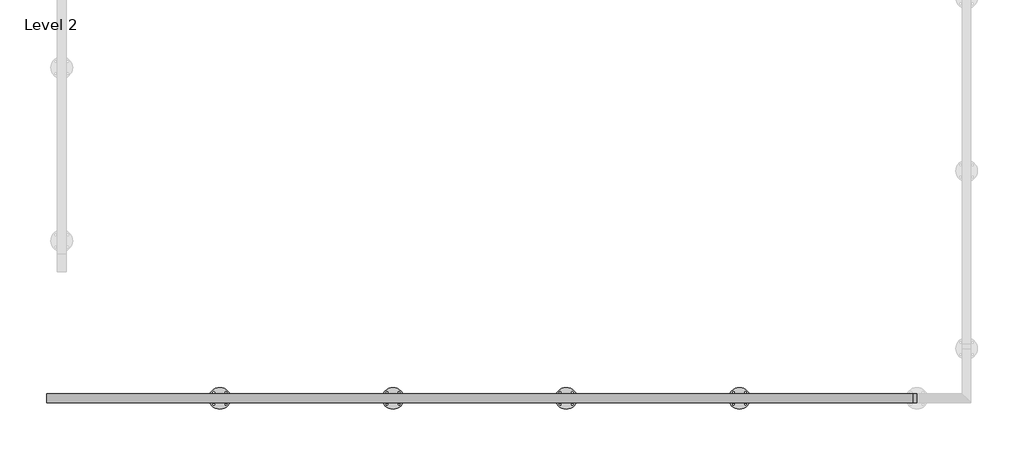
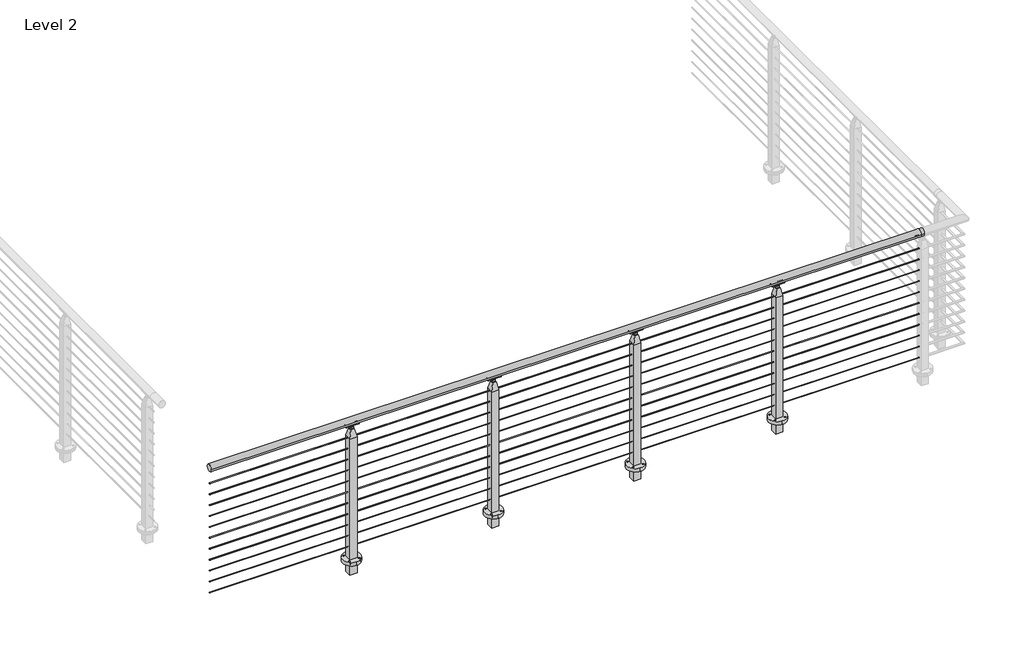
# One storey, part 14 of 17: 1 railing.
"""IFC4 building model written with IfcOpenShell, lengths in millimetres."""

from ifc_helpers import new_model, si_unit, point, frame, frame_2d, origin, place, context, project, spatial, polyline, circle_curve, trimmed, segment, composite_curve, outline, extrude, faceted_brep, element, save
from ifc_brep_helpers import plane_surface, cylinder_surface, revolved_surface, advanced_brep

model = new_model("IFC4")

# Units and contexts
model_context = context("Model", 3, world=origin())
ifc_project = project(units=[si_unit("LENGTHUNIT", "METRE", prefix="MILLI")], contexts=[model_context])

# Site, building, storey
site = spatial("IfcSite", under=ifc_project)
building = spatial("IfcBuilding", under=site)
storey = spatial("IfcBuildingStorey", under=building, Name="Level 2", Elevation=3048.0)

# Railing
placement = place(None, origin())
element("IfcRailing", 1, ObjectType="VIVA-CUBE-Cable-Core Mount-Straight", at=placement, inside=storey, context=model_context, shape_type="SolidModel", body=[
    advanced_brep(
    [(65792.8905484, -52130.1426165, 4102.1), (65792.8905484, -52079.3426165, 4102.1), (70872.8905484, -52130.1426165, 4102.1), (70872.8905484, -52079.3426165, 4102.1), (70897.8936734, -52130.1426165, 4102.1), (70897.8936734, -52079.3426165, 4102.1)],
    [
        (0, 1, circle_curve(frame((65792.8905484, -52104.7426165, 4102.1), z_axis=(-1.0, 0.0, 0.0), x_axis=(0.0, 1.0, 0.0)), 25.4)),
        (1, 0, circle_curve(frame((65792.8905484, -52104.7426165, 4102.1), z_axis=(-1.0, 0.0, 0.0), x_axis=(0.0, 1.0, 0.0)), 25.4)),
        (0, 2),
        (2, 3, circle_curve(frame((70872.8905484, -52104.7426165, 4102.1), z_axis=(-1.0, 0.0, 0.0), x_axis=(0.0, 1.0, 0.0)), 25.4)),
        (3, 1),
        (3, 2, circle_curve(frame((70872.8905484, -52104.7426165, 4102.1), z_axis=(-1.0, 0.0, 0.0), x_axis=(0.0, 1.0, 0.0)), 25.4)),
        (4, 5, circle_curve(frame((70897.8936734, -52104.7426165, 4102.1), z_axis=(1.0, 0.0, 0.0), x_axis=(0.0, 1.0, 0.0)), 25.4)),
        (5, 4, circle_curve(frame((70897.8936734, -52104.7426165, 4102.1), z_axis=(1.0, 0.0, 0.0), x_axis=(0.0, 1.0, 0.0)), 25.4)),
        (2, 4),
        (5, 3),
    ],
    [
        plane_surface(frame((65792.8905484, -52104.7426165, 4127.5), z_axis=(-1.0, 0.0, 0.0), x_axis=(0.0, 1.0, 0.0))),
        cylinder_surface(frame((65792.8905484, -52104.7426165, 4102.1), z_axis=(-1.0, 0.0, 0.0), x_axis=(0.0, 1.0, 0.0)), 25.4),
        plane_surface(frame((70897.8936734, -52104.7426165, 4127.5), z_axis=(1.0, 0.0, 0.0), x_axis=(0.0, 1.0, 0.0))),
        cylinder_surface(frame((70872.8905484, -52104.7426165, 4102.1), z_axis=(-1.0, 0.0, 0.0), x_axis=(0.0, 1.0, 0.0)), 25.4),
    ],
    [
        (0, [[1, 2]]),
        (1, [[-1, 3, 4, 5]]),
        (1, [[-2, -5, 6, -3]]),
        (2, [[7, 8]]),
        (3, [[-4, 9, -8, 10]]),
        (3, [[-6, -10, -7, -9]]),
    ],
),
    extrude(outline(composite_curve([segment(trimmed(circle_curve(frame_2d((-52104.7426165, 3985.4124)), 2.3876), [point((-52102.3550165, 3985.4124))], [point((-52107.1302165, 3985.4124))], False, "CARTESIAN"), True, "CONTINUOUS"), segment(trimmed(circle_curve(frame_2d((-52104.7426165, 3985.4124)), 2.3876), [point((-52107.1302165, 3985.4124))], [point((-52102.3550165, 3985.4124))], False, "CARTESIAN"), True, "CONTINUOUS")], self_intersect=False)), frame((65792.8905484, 0.0, 0.0), z_axis=(1.0, 0.0, 0.0), x_axis=(0.0, 1.0, 0.0)), (0.0, 0.0, 1.0), 5080.0),
    extrude(outline(composite_curve([segment(trimmed(circle_curve(frame_2d((-52104.7426165, 3902.8624)), 2.3876), [point((-52102.3550165, 3902.8624))], [point((-52107.1302165, 3902.8624))], False, "CARTESIAN"), True, "CONTINUOUS"), segment(trimmed(circle_curve(frame_2d((-52104.7426165, 3902.8624)), 2.3876), [point((-52107.1302165, 3902.8624))], [point((-52102.3550165, 3902.8624))], False, "CARTESIAN"), True, "CONTINUOUS")], self_intersect=False)), frame((65792.8905484, 0.0, 0.0), z_axis=(1.0, 0.0, 0.0), x_axis=(0.0, 1.0, 0.0)), (0.0, 0.0, 1.0), 5080.0),
    extrude(outline(composite_curve([segment(trimmed(circle_curve(frame_2d((-52104.7426165, 3820.3124)), 2.3876), [point((-52102.3550165, 3820.3124))], [point((-52107.1302165, 3820.3124))], False, "CARTESIAN"), True, "CONTINUOUS"), segment(trimmed(circle_curve(frame_2d((-52104.7426165, 3820.3124)), 2.3876), [point((-52107.1302165, 3820.3124))], [point((-52102.3550165, 3820.3124))], False, "CARTESIAN"), True, "CONTINUOUS")], self_intersect=False)), frame((65792.8905484, 0.0, 0.0), z_axis=(1.0, 0.0, 0.0), x_axis=(0.0, 1.0, 0.0)), (0.0, 0.0, 1.0), 5080.0),
    extrude(outline(composite_curve([segment(trimmed(circle_curve(frame_2d((-52104.7426165, 3737.7624)), 2.3876), [point((-52102.3550165, 3737.7624))], [point((-52107.1302165, 3737.7624))], False, "CARTESIAN"), True, "CONTINUOUS"), segment(trimmed(circle_curve(frame_2d((-52104.7426165, 3737.7624)), 2.3876), [point((-52107.1302165, 3737.7624))], [point((-52102.3550165, 3737.7624))], False, "CARTESIAN"), True, "CONTINUOUS")], self_intersect=False)), frame((65792.8905484, 0.0, 0.0), z_axis=(1.0, 0.0, 0.0), x_axis=(0.0, 1.0, 0.0)), (0.0, 0.0, 1.0), 5080.0),
    extrude(outline(composite_curve([segment(trimmed(circle_curve(frame_2d((-52104.7426165, 3655.2124)), 2.3876), [point((-52102.3550165, 3655.2124))], [point((-52107.1302165, 3655.2124))], False, "CARTESIAN"), True, "CONTINUOUS"), segment(trimmed(circle_curve(frame_2d((-52104.7426165, 3655.2124)), 2.3876), [point((-52107.1302165, 3655.2124))], [point((-52102.3550165, 3655.2124))], False, "CARTESIAN"), True, "CONTINUOUS")], self_intersect=False)), frame((65792.8905484, 0.0, 0.0), z_axis=(1.0, 0.0, 0.0), x_axis=(0.0, 1.0, 0.0)), (0.0, 0.0, 1.0), 5080.0),
    extrude(outline(composite_curve([segment(trimmed(circle_curve(frame_2d((-52104.7426165, 3572.6624)), 2.3876), [point((-52102.3550165, 3572.6624))], [point((-52107.1302165, 3572.6624))], False, "CARTESIAN"), True, "CONTINUOUS"), segment(trimmed(circle_curve(frame_2d((-52104.7426165, 3572.6624)), 2.3876), [point((-52107.1302165, 3572.6624))], [point((-52102.3550165, 3572.6624))], False, "CARTESIAN"), True, "CONTINUOUS")], self_intersect=False)), frame((65792.8905484, 0.0, 0.0), z_axis=(1.0, 0.0, 0.0), x_axis=(0.0, 1.0, 0.0)), (0.0, 0.0, 1.0), 5080.0),
    extrude(outline(composite_curve([segment(trimmed(circle_curve(frame_2d((-52104.7426165, 3490.1124)), 2.3876), [point((-52102.3550165, 3490.1124))], [point((-52107.1302165, 3490.1124))], False, "CARTESIAN"), True, "CONTINUOUS"), segment(trimmed(circle_curve(frame_2d((-52104.7426165, 3490.1124)), 2.3876), [point((-52107.1302165, 3490.1124))], [point((-52102.3550165, 3490.1124))], False, "CARTESIAN"), True, "CONTINUOUS")], self_intersect=False)), frame((65792.8905484, 0.0, 0.0), z_axis=(1.0, 0.0, 0.0), x_axis=(0.0, 1.0, 0.0)), (0.0, 0.0, 1.0), 5080.0),
    extrude(outline(composite_curve([segment(trimmed(circle_curve(frame_2d((-52104.7426165, 3407.5624)), 2.3876), [point((-52102.3550165, 3407.5624))], [point((-52107.1302165, 3407.5624))], False, "CARTESIAN"), True, "CONTINUOUS"), segment(trimmed(circle_curve(frame_2d((-52104.7426165, 3407.5624)), 2.3876), [point((-52107.1302165, 3407.5624))], [point((-52102.3550165, 3407.5624))], False, "CARTESIAN"), True, "CONTINUOUS")], self_intersect=False)), frame((65792.8905484, 0.0, 0.0), z_axis=(1.0, 0.0, 0.0), x_axis=(0.0, 1.0, 0.0)), (0.0, 0.0, 1.0), 5080.0),
    extrude(outline(composite_curve([segment(trimmed(circle_curve(frame_2d((-52104.7426165, 3325.0124)), 2.3876), [point((-52102.3550165, 3325.0124))], [point((-52107.1302165, 3325.0124))], False, "CARTESIAN"), True, "CONTINUOUS"), segment(trimmed(circle_curve(frame_2d((-52104.7426165, 3325.0124)), 2.3876), [point((-52107.1302165, 3325.0124))], [point((-52102.3550165, 3325.0124))], False, "CARTESIAN"), True, "CONTINUOUS")], self_intersect=False)), frame((65792.8905484, 0.0, 0.0), z_axis=(1.0, 0.0, 0.0), x_axis=(0.0, 1.0, 0.0)), (0.0, 0.0, 1.0), 5080.0),
    extrude(outline(composite_curve([segment(trimmed(circle_curve(frame_2d((-52104.7426165, 3242.4624)), 2.3876), [point((-52102.3550165, 3242.4624))], [point((-52107.1302165, 3242.4624))], False, "CARTESIAN"), True, "CONTINUOUS"), segment(trimmed(circle_curve(frame_2d((-52104.7426165, 3242.4624)), 2.3876), [point((-52107.1302165, 3242.4624))], [point((-52102.3550165, 3242.4624))], False, "CARTESIAN"), True, "CONTINUOUS")], self_intersect=False)), frame((65792.8905484, 0.0, 0.0), z_axis=(1.0, 0.0, 0.0), x_axis=(0.0, 1.0, 0.0)), (0.0, 0.0, 1.0), 5080.0),
    extrude(outline(composite_curve([segment(trimmed(circle_curve(frame_2d((-52104.7426165, 3159.9124)), 2.3876), [point((-52102.3550165, 3159.9124))], [point((-52107.1302165, 3159.9124))], False, "CARTESIAN"), True, "CONTINUOUS"), segment(trimmed(circle_curve(frame_2d((-52104.7426165, 3159.9124)), 2.3876), [point((-52107.1302165, 3159.9124))], [point((-52102.3550165, 3159.9124))], False, "CARTESIAN"), True, "CONTINUOUS")], self_intersect=False)), frame((65792.8905484, 0.0, 0.0), z_axis=(1.0, 0.0, 0.0), x_axis=(0.0, 1.0, 0.0)), (0.0, 0.0, 1.0), 5080.0),
    extrude(outline(composite_curve([segment(trimmed(circle_curve(frame_2d((69857.2874234, -52104.7426165)), 63.5), [point((69857.2874234, -52168.2426165))], [point((69857.2874234, -52041.2426165))], False, "CARTESIAN"), True, "CONTINUOUS"), segment(trimmed(circle_curve(frame_2d((69857.2874234, -52104.7426165)), 63.5), [point((69857.2874234, -52041.2426165))], [point((69857.2874234, -52168.2426165))], False, "CARTESIAN"), True, "CONTINUOUS")], self_intersect=False), holes=[composite_curve([segment(trimmed(circle_curve(frame_2d((69821.8176795, -52140.2123604)), 4.7625), [point((69821.8176795, -52144.9748604))], [point((69821.8176795, -52135.4498604))], True, "CARTESIAN"), True, "CONTINUOUS"), segment(trimmed(circle_curve(frame_2d((69821.8176795, -52140.2123604)), 4.7625), [point((69821.8176795, -52135.4498604))], [point((69821.8176795, -52144.9748604))], True, "CARTESIAN"), True, "CONTINUOUS")], self_intersect=False), composite_curve([segment(trimmed(circle_curve(frame_2d((69821.8176795, -52069.2728727)), 4.7625), [point((69821.8176795, -52074.0353727))], [point((69821.8176795, -52064.5103727))], True, "CARTESIAN"), True, "CONTINUOUS"), segment(trimmed(circle_curve(frame_2d((69821.8176795, -52069.2728727)), 4.7625), [point((69821.8176795, -52064.5103727))], [point((69821.8176795, -52074.0353727))], True, "CARTESIAN"), True, "CONTINUOUS")], self_intersect=False), composite_curve([segment(trimmed(circle_curve(frame_2d((69892.7571673, -52140.2123604)), 4.7625), [point((69892.7571673, -52144.9748604))], [point((69892.7571673, -52135.4498604))], True, "CARTESIAN"), True, "CONTINUOUS"), segment(trimmed(circle_curve(frame_2d((69892.7571673, -52140.2123604)), 4.7625), [point((69892.7571673, -52135.4498604))], [point((69892.7571673, -52144.9748604))], True, "CARTESIAN"), True, "CONTINUOUS")], self_intersect=False), composite_curve([segment(trimmed(circle_curve(frame_2d((69892.7571673, -52069.2728727)), 4.7625), [point((69892.7571673, -52074.0353727))], [point((69892.7571673, -52064.5103727))], True, "CARTESIAN"), True, "CONTINUOUS"), segment(trimmed(circle_curve(frame_2d((69892.7571673, -52069.2728727)), 4.7625), [point((69892.7571673, -52064.5103727))], [point((69892.7571673, -52074.0353727))], True, "CARTESIAN"), True, "CONTINUOUS")], self_intersect=False)]), frame((0.0, 0.0, 3048.0), z_axis=(0.0, 0.0, 1.0), x_axis=(1.0, 0.0, 0.0)), (0.0, 0.0, 1.0), 25.4),
    faceted_brep([(69869.9874234, -52092.0426165, 4045.2902749), (69844.5874234, -52092.0426165, 4045.2902749), (69844.5874234, -52100.7738665, 4045.2902749), (69869.9874234, -52100.7738665, 4045.2902749), (69844.5874234, -52117.4426165, 4045.2902749), (69869.9874234, -52117.4426165, 4045.2902749), (69869.9874234, -52108.7113665, 4045.2902749), (69844.5874234, -52108.7113665, 4045.2902749), (69882.6874234, -52079.3426165, 3989.1347854), (69882.6874234, -52130.1426165, 3989.1347854), (69831.8874234, -52079.3426165, 3989.1347854), (69831.8874234, -52130.1426165, 3989.1347854), (69882.6874234, -52079.3426165, 2959.1), (69882.6874234, -52130.1426165, 2959.1), (69831.8874234, -52130.1426165, 2959.1), (69831.8874234, -52079.3426165, 2959.1), (69844.5874234, -52108.7113665, 4057.3306013), (69869.9874234, -52108.7113665, 4057.3306013), (69869.9874234, -52100.7738665, 4057.3306013), (69844.5874234, -52100.7738665, 4057.3306013)], [[[0, 1, 2, 3]], [[4, 5, 6, 7]], [[8, 0, 3, 6, 5, 9]], [[1, 0, 8, 10]], [[1, 10, 11, 4, 7, 2]], [[5, 4, 11, 9]], [[12, 13, 14, 15]], [[12, 15, 10, 8]], [[15, 14, 11, 10]], [[14, 13, 9, 11]], [[13, 12, 8, 9]], [[16, 17, 18, 19]], [[17, 16, 7, 6]], [[18, 17, 6, 3]], [[19, 18, 3, 2]], [[16, 19, 2, 7]]]),
    extrude(outline(composite_curve([segment(trimmed(circle_curve(frame_2d((-52104.6458882, 4102.1433184)), 25.4345159), [point((-52117.2096911, 4080.0284941))], [point((-52092.2506544, 4079.9335733))], True, "CARTESIAN"), True, "CONTINUOUS"), segment(trimmed(circle_curve(frame_2d((-52091.0060013, 4077.4310885)), 2.7949225), [point((-52092.2506544, 4079.9335733))], [point((-52089.5286962, 4075.0585031))], False, "CARTESIAN"), True, "CONTINUOUS"), segment(trimmed(circle_curve(frame_2d((-52104.7793513, 4102.905945)), 31.75), [point((-52089.5286962, 4075.0585031))], [point((-52121.0455885, 4075.6392616))], False, "CARTESIAN"), True, "CONTINUOUS"), segment(trimmed(circle_curve(frame_2d((-52118.7572487, 4077.5101807)), 2.9558141), [point((-52121.0455885, 4075.6392616))], [point((-52117.2096911, 4080.0284941))], False, "CARTESIAN"), True, "CONTINUOUS")], self_intersect=False)), frame((69812.0500234, 0.0, 0.0), z_axis=(1.0, 0.0, 0.0), x_axis=(0.0, 1.0, 0.0)), (0.0, 0.0, 1.0), 90.4748),
    advanced_brep(
    [(69884.3553383, -52102.2026165, 4071.3685171), (69869.9874234, -52102.2026165, 4057.0006022), (69844.5874234, -52102.2026165, 4057.0006022), (69830.2195085, -52102.2026165, 4071.3685171), (69884.3553383, -52107.2826165, 4071.3685171), (69830.2195085, -52107.2826165, 4071.3685171), (69844.5874234, -52107.2826165, 4057.0006022), (69869.9874234, -52107.2826165, 4057.0006022)],
    [
        (0, 1, circle_curve(frame((69884.3553383, -52102.2026165, 4057.0006022), z_axis=(0.0, -1.0, 0.0), x_axis=(-1.0, 0.0, 0.0)), 14.3679149)),
        (1, 2, circle_curve(frame((69857.2874234, -52102.2026165, 4057.0006022), z_axis=(0.0, 1.0, 0.0), x_axis=(-1.0, 0.0, 0.0)), 12.7)),
        (2, 3, circle_curve(frame((69830.2195085, -52102.2026165, 4057.0006022), z_axis=(0.0, -1.0, 0.0), x_axis=(-1.0, 0.0, 0.0)), 14.3679149)),
        (3, 0),
        (4, 5),
        (5, 6, circle_curve(frame((69830.2195085, -52107.2826165, 4057.0006022), z_axis=(0.0, 1.0, 0.0), x_axis=(-1.0, 0.0, 0.0)), 14.3679149)),
        (6, 7, circle_curve(frame((69857.2874234, -52107.2826165, 4057.0006022), z_axis=(0.0, -1.0, 0.0), x_axis=(-1.0, 0.0, 0.0)), 12.7)),
        (7, 4, circle_curve(frame((69884.3553383, -52107.2826165, 4057.0006022), z_axis=(0.0, 1.0, 0.0), x_axis=(-1.0, 0.0, 0.0)), 14.3679149)),
        (0, 4),
        (7, 1),
        (6, 2),
        (5, 3),
    ],
    [
        plane_surface(frame((69869.9874234, -52102.2026165, 4057.0006022), z_axis=(0.0, 1.0, 0.0), x_axis=(0.0, 0.0, -1.0))),
        plane_surface(frame((69869.9874234, -52107.2826165, 4057.0006022), z_axis=(0.0, -1.0, 0.0), x_axis=(0.0, 0.0, 1.0))),
        revolved_surface(polyline([(69869.9874234, -52107.2826165, 4057.0006022), (69869.9874234, -52102.2026165, 4057.0006022)]), (69884.3553383, -52107.2826165, 4057.0006022), (0.0, -1.0, 0.0)),
        cylinder_surface(frame((69857.2874234, -52107.2826165, 4057.0006022), z_axis=(0.0, 1.0, 0.0), x_axis=(-1.0, 0.0, 0.0)), 12.7),
        revolved_surface(polyline([(69815.8515936, -52107.2826165, 4057.0006022), (69815.8515936, -52102.2026165, 4057.0006022)]), (69830.2195085, -52107.2826165, 4057.0006022), (0.0, -1.0, 0.0)),
        plane_surface(frame((69830.2195085, -52102.2026165, 4071.3685171), z_axis=(0.0, 0.0, 1.0), x_axis=(0.0, -1.0, 0.0))),
    ],
    [
        (0, [[1, 2, 3, 4]]),
        (1, [[5, 6, 7, 8]]),
        (2, [[-1, 9, -8, 10]]),
        (3, [[-2, -10, -7, 11]]),
        (4, [[-3, -11, -6, 12]]),
        (5, [[-4, -12, -5, -9]]),
    ],
),
    extrude(outline(composite_curve([segment(trimmed(circle_curve(frame_2d((68841.2874234, -52104.7426165)), 63.5), [point((68841.2874234, -52168.2426165))], [point((68841.2874234, -52041.2426165))], False, "CARTESIAN"), True, "CONTINUOUS"), segment(trimmed(circle_curve(frame_2d((68841.2874234, -52104.7426165)), 63.5), [point((68841.2874234, -52041.2426165))], [point((68841.2874234, -52168.2426165))], False, "CARTESIAN"), True, "CONTINUOUS")], self_intersect=False), holes=[composite_curve([segment(trimmed(circle_curve(frame_2d((68805.8176795, -52140.2123604)), 4.7625), [point((68805.8176795, -52144.9748604))], [point((68805.8176795, -52135.4498604))], True, "CARTESIAN"), True, "CONTINUOUS"), segment(trimmed(circle_curve(frame_2d((68805.8176795, -52140.2123604)), 4.7625), [point((68805.8176795, -52135.4498604))], [point((68805.8176795, -52144.9748604))], True, "CARTESIAN"), True, "CONTINUOUS")], self_intersect=False), composite_curve([segment(trimmed(circle_curve(frame_2d((68805.8176795, -52069.2728727)), 4.7625), [point((68805.8176795, -52074.0353727))], [point((68805.8176795, -52064.5103727))], True, "CARTESIAN"), True, "CONTINUOUS"), segment(trimmed(circle_curve(frame_2d((68805.8176795, -52069.2728727)), 4.7625), [point((68805.8176795, -52064.5103727))], [point((68805.8176795, -52074.0353727))], True, "CARTESIAN"), True, "CONTINUOUS")], self_intersect=False), composite_curve([segment(trimmed(circle_curve(frame_2d((68876.7571673, -52140.2123604)), 4.7625), [point((68876.7571673, -52144.9748604))], [point((68876.7571673, -52135.4498604))], True, "CARTESIAN"), True, "CONTINUOUS"), segment(trimmed(circle_curve(frame_2d((68876.7571673, -52140.2123604)), 4.7625), [point((68876.7571673, -52135.4498604))], [point((68876.7571673, -52144.9748604))], True, "CARTESIAN"), True, "CONTINUOUS")], self_intersect=False), composite_curve([segment(trimmed(circle_curve(frame_2d((68876.7571673, -52069.2728727)), 4.7625), [point((68876.7571673, -52074.0353727))], [point((68876.7571673, -52064.5103727))], True, "CARTESIAN"), True, "CONTINUOUS"), segment(trimmed(circle_curve(frame_2d((68876.7571673, -52069.2728727)), 4.7625), [point((68876.7571673, -52064.5103727))], [point((68876.7571673, -52074.0353727))], True, "CARTESIAN"), True, "CONTINUOUS")], self_intersect=False)]), frame((0.0, 0.0, 3048.0), z_axis=(0.0, 0.0, 1.0), x_axis=(1.0, 0.0, 0.0)), (0.0, 0.0, 1.0), 25.4),
    faceted_brep([(68853.9874234, -52092.0426165, 4045.2902749), (68828.5874234, -52092.0426165, 4045.2902749), (68828.5874234, -52100.7738665, 4045.2902749), (68853.9874234, -52100.7738665, 4045.2902749), (68828.5874234, -52117.4426165, 4045.2902749), (68853.9874234, -52117.4426165, 4045.2902749), (68853.9874234, -52108.7113665, 4045.2902749), (68828.5874234, -52108.7113665, 4045.2902749), (68866.6874234, -52079.3426165, 3989.1347854), (68866.6874234, -52130.1426165, 3989.1347854), (68815.8874234, -52079.3426165, 3989.1347854), (68815.8874234, -52130.1426165, 3989.1347854), (68866.6874234, -52079.3426165, 2959.1), (68866.6874234, -52130.1426165, 2959.1), (68815.8874234, -52130.1426165, 2959.1), (68815.8874234, -52079.3426165, 2959.1), (68828.5874234, -52108.7113665, 4057.3306013), (68853.9874234, -52108.7113665, 4057.3306013), (68853.9874234, -52100.7738665, 4057.3306013), (68828.5874234, -52100.7738665, 4057.3306013)], [[[0, 1, 2, 3]], [[4, 5, 6, 7]], [[8, 0, 3, 6, 5, 9]], [[1, 0, 8, 10]], [[1, 10, 11, 4, 7, 2]], [[5, 4, 11, 9]], [[12, 13, 14, 15]], [[12, 15, 10, 8]], [[15, 14, 11, 10]], [[14, 13, 9, 11]], [[13, 12, 8, 9]], [[16, 17, 18, 19]], [[17, 16, 7, 6]], [[18, 17, 6, 3]], [[19, 18, 3, 2]], [[16, 19, 2, 7]]]),
    extrude(outline(composite_curve([segment(trimmed(circle_curve(frame_2d((-52104.6458882, 4102.1433184)), 25.4345159), [point((-52117.2096911, 4080.0284941))], [point((-52092.2506544, 4079.9335733))], True, "CARTESIAN"), True, "CONTINUOUS"), segment(trimmed(circle_curve(frame_2d((-52091.0060013, 4077.4310885)), 2.7949225), [point((-52092.2506544, 4079.9335733))], [point((-52089.5286962, 4075.0585031))], False, "CARTESIAN"), True, "CONTINUOUS"), segment(trimmed(circle_curve(frame_2d((-52104.7793513, 4102.905945)), 31.75), [point((-52089.5286962, 4075.0585031))], [point((-52121.0455885, 4075.6392616))], False, "CARTESIAN"), True, "CONTINUOUS"), segment(trimmed(circle_curve(frame_2d((-52118.7572487, 4077.5101807)), 2.9558141), [point((-52121.0455885, 4075.6392616))], [point((-52117.2096911, 4080.0284941))], False, "CARTESIAN"), True, "CONTINUOUS")], self_intersect=False)), frame((68796.0500234, 0.0, 0.0), z_axis=(1.0, 0.0, 0.0), x_axis=(0.0, 1.0, 0.0)), (0.0, 0.0, 1.0), 90.4748),
    advanced_brep(
    [(68868.3553383, -52102.2026165, 4071.3685171), (68853.9874234, -52102.2026165, 4057.0006022), (68828.5874234, -52102.2026165, 4057.0006022), (68814.2195085, -52102.2026165, 4071.3685171), (68868.3553383, -52107.2826165, 4071.3685171), (68814.2195085, -52107.2826165, 4071.3685171), (68828.5874234, -52107.2826165, 4057.0006022), (68853.9874234, -52107.2826165, 4057.0006022)],
    [
        (0, 1, circle_curve(frame((68868.3553383, -52102.2026165, 4057.0006022), z_axis=(0.0, -1.0, 0.0), x_axis=(-1.0, 0.0, 0.0)), 14.3679149)),
        (1, 2, circle_curve(frame((68841.2874234, -52102.2026165, 4057.0006022), z_axis=(0.0, 1.0, 0.0), x_axis=(-1.0, 0.0, 0.0)), 12.7)),
        (2, 3, circle_curve(frame((68814.2195085, -52102.2026165, 4057.0006022), z_axis=(0.0, -1.0, 0.0), x_axis=(-1.0, 0.0, 0.0)), 14.3679149)),
        (3, 0),
        (4, 5),
        (5, 6, circle_curve(frame((68814.2195085, -52107.2826165, 4057.0006022), z_axis=(0.0, 1.0, 0.0), x_axis=(-1.0, 0.0, 0.0)), 14.3679149)),
        (6, 7, circle_curve(frame((68841.2874234, -52107.2826165, 4057.0006022), z_axis=(0.0, -1.0, 0.0), x_axis=(-1.0, 0.0, 0.0)), 12.7)),
        (7, 4, circle_curve(frame((68868.3553383, -52107.2826165, 4057.0006022), z_axis=(0.0, 1.0, 0.0), x_axis=(-1.0, 0.0, 0.0)), 14.3679149)),
        (0, 4),
        (7, 1),
        (6, 2),
        (5, 3),
    ],
    [
        plane_surface(frame((68853.9874234, -52102.2026165, 4057.0006022), z_axis=(0.0, 1.0, 0.0), x_axis=(0.0, 0.0, -1.0))),
        plane_surface(frame((68853.9874234, -52107.2826165, 4057.0006022), z_axis=(0.0, -1.0, 0.0), x_axis=(0.0, 0.0, 1.0))),
        revolved_surface(polyline([(68853.9874234, -52107.2826165, 4057.0006022), (68853.9874234, -52102.2026165, 4057.0006022)]), (68868.3553383, -52107.2826165, 4057.0006022), (0.0, -1.0, 0.0)),
        cylinder_surface(frame((68841.2874234, -52107.2826165, 4057.0006022), z_axis=(0.0, 1.0, 0.0), x_axis=(-1.0, 0.0, 0.0)), 12.7),
        revolved_surface(polyline([(68799.8515936, -52107.2826165, 4057.0006022), (68799.8515936, -52102.2026165, 4057.0006022)]), (68814.2195085, -52107.2826165, 4057.0006022), (0.0, -1.0, 0.0)),
        plane_surface(frame((68814.2195085, -52102.2026165, 4071.3685171), z_axis=(0.0, 0.0, 1.0), x_axis=(0.0, -1.0, 0.0))),
    ],
    [
        (0, [[1, 2, 3, 4]]),
        (1, [[5, 6, 7, 8]]),
        (2, [[-1, 9, -8, 10]]),
        (3, [[-2, -10, -7, 11]]),
        (4, [[-3, -11, -6, 12]]),
        (5, [[-4, -12, -5, -9]]),
    ],
),
    extrude(outline(composite_curve([segment(trimmed(circle_curve(frame_2d((67825.2874234, -52104.7426165)), 63.5), [point((67825.2874234, -52168.2426165))], [point((67825.2874234, -52041.2426165))], False, "CARTESIAN"), True, "CONTINUOUS"), segment(trimmed(circle_curve(frame_2d((67825.2874234, -52104.7426165)), 63.5), [point((67825.2874234, -52041.2426165))], [point((67825.2874234, -52168.2426165))], False, "CARTESIAN"), True, "CONTINUOUS")], self_intersect=False), holes=[composite_curve([segment(trimmed(circle_curve(frame_2d((67789.8176795, -52140.2123604)), 4.7625), [point((67789.8176795, -52144.9748604))], [point((67789.8176795, -52135.4498604))], True, "CARTESIAN"), True, "CONTINUOUS"), segment(trimmed(circle_curve(frame_2d((67789.8176795, -52140.2123604)), 4.7625), [point((67789.8176795, -52135.4498604))], [point((67789.8176795, -52144.9748604))], True, "CARTESIAN"), True, "CONTINUOUS")], self_intersect=False), composite_curve([segment(trimmed(circle_curve(frame_2d((67789.8176795, -52069.2728727)), 4.7625), [point((67789.8176795, -52074.0353727))], [point((67789.8176795, -52064.5103727))], True, "CARTESIAN"), True, "CONTINUOUS"), segment(trimmed(circle_curve(frame_2d((67789.8176795, -52069.2728727)), 4.7625), [point((67789.8176795, -52064.5103727))], [point((67789.8176795, -52074.0353727))], True, "CARTESIAN"), True, "CONTINUOUS")], self_intersect=False), composite_curve([segment(trimmed(circle_curve(frame_2d((67860.7571673, -52140.2123604)), 4.7625), [point((67860.7571673, -52144.9748604))], [point((67860.7571673, -52135.4498604))], True, "CARTESIAN"), True, "CONTINUOUS"), segment(trimmed(circle_curve(frame_2d((67860.7571673, -52140.2123604)), 4.7625), [point((67860.7571673, -52135.4498604))], [point((67860.7571673, -52144.9748604))], True, "CARTESIAN"), True, "CONTINUOUS")], self_intersect=False), composite_curve([segment(trimmed(circle_curve(frame_2d((67860.7571673, -52069.2728727)), 4.7625), [point((67860.7571673, -52074.0353727))], [point((67860.7571673, -52064.5103727))], True, "CARTESIAN"), True, "CONTINUOUS"), segment(trimmed(circle_curve(frame_2d((67860.7571673, -52069.2728727)), 4.7625), [point((67860.7571673, -52064.5103727))], [point((67860.7571673, -52074.0353727))], True, "CARTESIAN"), True, "CONTINUOUS")], self_intersect=False)]), frame((0.0, 0.0, 3048.0), z_axis=(0.0, 0.0, 1.0), x_axis=(1.0, 0.0, 0.0)), (0.0, 0.0, 1.0), 25.4),
    faceted_brep([(67837.9874234, -52092.0426165, 4045.2902749), (67812.5874234, -52092.0426165, 4045.2902749), (67812.5874234, -52100.7738665, 4045.2902749), (67837.9874234, -52100.7738665, 4045.2902749), (67812.5874234, -52117.4426165, 4045.2902749), (67837.9874234, -52117.4426165, 4045.2902749), (67837.9874234, -52108.7113665, 4045.2902749), (67812.5874234, -52108.7113665, 4045.2902749), (67850.6874234, -52079.3426165, 3989.1347854), (67850.6874234, -52130.1426165, 3989.1347854), (67799.8874234, -52079.3426165, 3989.1347854), (67799.8874234, -52130.1426165, 3989.1347854), (67850.6874234, -52079.3426165, 2959.1), (67850.6874234, -52130.1426165, 2959.1), (67799.8874234, -52130.1426165, 2959.1), (67799.8874234, -52079.3426165, 2959.1), (67812.5874234, -52108.7113665, 4057.3306013), (67837.9874234, -52108.7113665, 4057.3306013), (67837.9874234, -52100.7738665, 4057.3306013), (67812.5874234, -52100.7738665, 4057.3306013)], [[[0, 1, 2, 3]], [[4, 5, 6, 7]], [[8, 0, 3, 6, 5, 9]], [[1, 0, 8, 10]], [[1, 10, 11, 4, 7, 2]], [[5, 4, 11, 9]], [[12, 13, 14, 15]], [[12, 15, 10, 8]], [[15, 14, 11, 10]], [[14, 13, 9, 11]], [[13, 12, 8, 9]], [[16, 17, 18, 19]], [[17, 16, 7, 6]], [[18, 17, 6, 3]], [[19, 18, 3, 2]], [[16, 19, 2, 7]]]),
    extrude(outline(composite_curve([segment(trimmed(circle_curve(frame_2d((-52104.6458882, 4102.1433184)), 25.4345159), [point((-52117.2096911, 4080.0284941))], [point((-52092.2506544, 4079.9335733))], True, "CARTESIAN"), True, "CONTINUOUS"), segment(trimmed(circle_curve(frame_2d((-52091.0060013, 4077.4310885)), 2.7949225), [point((-52092.2506544, 4079.9335733))], [point((-52089.5286962, 4075.0585031))], False, "CARTESIAN"), True, "CONTINUOUS"), segment(trimmed(circle_curve(frame_2d((-52104.7793513, 4102.905945)), 31.75), [point((-52089.5286962, 4075.0585031))], [point((-52121.0455885, 4075.6392616))], False, "CARTESIAN"), True, "CONTINUOUS"), segment(trimmed(circle_curve(frame_2d((-52118.7572487, 4077.5101807)), 2.9558141), [point((-52121.0455885, 4075.6392616))], [point((-52117.2096911, 4080.0284941))], False, "CARTESIAN"), True, "CONTINUOUS")], self_intersect=False)), frame((67780.0500234, 0.0, 0.0), z_axis=(1.0, 0.0, 0.0), x_axis=(0.0, 1.0, 0.0)), (0.0, 0.0, 1.0), 90.4748),
    advanced_brep(
    [(67852.3553383, -52102.2026165, 4071.3685171), (67837.9874234, -52102.2026165, 4057.0006022), (67812.5874234, -52102.2026165, 4057.0006022), (67798.2195085, -52102.2026165, 4071.3685171), (67852.3553383, -52107.2826165, 4071.3685171), (67798.2195085, -52107.2826165, 4071.3685171), (67812.5874234, -52107.2826165, 4057.0006022), (67837.9874234, -52107.2826165, 4057.0006022)],
    [
        (0, 1, circle_curve(frame((67852.3553383, -52102.2026165, 4057.0006022), z_axis=(0.0, -1.0, 0.0), x_axis=(-1.0, 0.0, 0.0)), 14.3679149)),
        (1, 2, circle_curve(frame((67825.2874234, -52102.2026165, 4057.0006022), z_axis=(0.0, 1.0, 0.0), x_axis=(-1.0, 0.0, 0.0)), 12.7)),
        (2, 3, circle_curve(frame((67798.2195085, -52102.2026165, 4057.0006022), z_axis=(0.0, -1.0, 0.0), x_axis=(-1.0, 0.0, 0.0)), 14.3679149)),
        (3, 0),
        (4, 5),
        (5, 6, circle_curve(frame((67798.2195085, -52107.2826165, 4057.0006022), z_axis=(0.0, 1.0, 0.0), x_axis=(-1.0, 0.0, 0.0)), 14.3679149)),
        (6, 7, circle_curve(frame((67825.2874234, -52107.2826165, 4057.0006022), z_axis=(0.0, -1.0, 0.0), x_axis=(-1.0, 0.0, 0.0)), 12.7)),
        (7, 4, circle_curve(frame((67852.3553383, -52107.2826165, 4057.0006022), z_axis=(0.0, 1.0, 0.0), x_axis=(-1.0, 0.0, 0.0)), 14.3679149)),
        (0, 4),
        (7, 1),
        (6, 2),
        (5, 3),
    ],
    [
        plane_surface(frame((67837.9874234, -52102.2026165, 4057.0006022), z_axis=(0.0, 1.0, 0.0), x_axis=(0.0, 0.0, -1.0))),
        plane_surface(frame((67837.9874234, -52107.2826165, 4057.0006022), z_axis=(0.0, -1.0, 0.0), x_axis=(0.0, 0.0, 1.0))),
        revolved_surface(polyline([(67837.9874234, -52107.2826165, 4057.0006022), (67837.9874234, -52102.2026165, 4057.0006022)]), (67852.3553383, -52107.2826165, 4057.0006022), (0.0, -1.0, 0.0)),
        cylinder_surface(frame((67825.2874234, -52107.2826165, 4057.0006022), z_axis=(0.0, 1.0, 0.0), x_axis=(-1.0, 0.0, 0.0)), 12.7),
        revolved_surface(polyline([(67783.8515936, -52107.2826165, 4057.0006022), (67783.8515936, -52102.2026165, 4057.0006022)]), (67798.2195085, -52107.2826165, 4057.0006022), (0.0, -1.0, 0.0)),
        plane_surface(frame((67798.2195085, -52102.2026165, 4071.3685171), z_axis=(0.0, 0.0, 1.0), x_axis=(0.0, -1.0, 0.0))),
    ],
    [
        (0, [[1, 2, 3, 4]]),
        (1, [[5, 6, 7, 8]]),
        (2, [[-1, 9, -8, 10]]),
        (3, [[-2, -10, -7, 11]]),
        (4, [[-3, -11, -6, 12]]),
        (5, [[-4, -12, -5, -9]]),
    ],
),
    extrude(outline(composite_curve([segment(trimmed(circle_curve(frame_2d((66809.2874234, -52104.7426165)), 63.5), [point((66809.2874234, -52168.2426165))], [point((66809.2874234, -52041.2426165))], False, "CARTESIAN"), True, "CONTINUOUS"), segment(trimmed(circle_curve(frame_2d((66809.2874234, -52104.7426165)), 63.5), [point((66809.2874234, -52041.2426165))], [point((66809.2874234, -52168.2426165))], False, "CARTESIAN"), True, "CONTINUOUS")], self_intersect=False), holes=[composite_curve([segment(trimmed(circle_curve(frame_2d((66773.8176795, -52140.2123604)), 4.7625), [point((66773.8176795, -52144.9748604))], [point((66773.8176795, -52135.4498604))], True, "CARTESIAN"), True, "CONTINUOUS"), segment(trimmed(circle_curve(frame_2d((66773.8176795, -52140.2123604)), 4.7625), [point((66773.8176795, -52135.4498604))], [point((66773.8176795, -52144.9748604))], True, "CARTESIAN"), True, "CONTINUOUS")], self_intersect=False), composite_curve([segment(trimmed(circle_curve(frame_2d((66773.8176795, -52069.2728727)), 4.7625), [point((66773.8176795, -52074.0353727))], [point((66773.8176795, -52064.5103727))], True, "CARTESIAN"), True, "CONTINUOUS"), segment(trimmed(circle_curve(frame_2d((66773.8176795, -52069.2728727)), 4.7625), [point((66773.8176795, -52064.5103727))], [point((66773.8176795, -52074.0353727))], True, "CARTESIAN"), True, "CONTINUOUS")], self_intersect=False), composite_curve([segment(trimmed(circle_curve(frame_2d((66844.7571673, -52140.2123604)), 4.7625), [point((66844.7571673, -52144.9748604))], [point((66844.7571673, -52135.4498604))], True, "CARTESIAN"), True, "CONTINUOUS"), segment(trimmed(circle_curve(frame_2d((66844.7571673, -52140.2123604)), 4.7625), [point((66844.7571673, -52135.4498604))], [point((66844.7571673, -52144.9748604))], True, "CARTESIAN"), True, "CONTINUOUS")], self_intersect=False), composite_curve([segment(trimmed(circle_curve(frame_2d((66844.7571673, -52069.2728727)), 4.7625), [point((66844.7571673, -52074.0353727))], [point((66844.7571673, -52064.5103727))], True, "CARTESIAN"), True, "CONTINUOUS"), segment(trimmed(circle_curve(frame_2d((66844.7571673, -52069.2728727)), 4.7625), [point((66844.7571673, -52064.5103727))], [point((66844.7571673, -52074.0353727))], True, "CARTESIAN"), True, "CONTINUOUS")], self_intersect=False)]), frame((0.0, 0.0, 3048.0), z_axis=(0.0, 0.0, 1.0), x_axis=(1.0, 0.0, 0.0)), (0.0, 0.0, 1.0), 25.4),
    faceted_brep([(66821.9874234, -52092.0426165, 4045.2902749), (66796.5874234, -52092.0426165, 4045.2902749), (66796.5874234, -52100.7738665, 4045.2902749), (66821.9874234, -52100.7738665, 4045.2902749), (66796.5874234, -52117.4426165, 4045.2902749), (66821.9874234, -52117.4426165, 4045.2902749), (66821.9874234, -52108.7113665, 4045.2902749), (66796.5874234, -52108.7113665, 4045.2902749), (66834.6874234, -52079.3426165, 3989.1347854), (66834.6874234, -52130.1426165, 3989.1347854), (66783.8874234, -52079.3426165, 3989.1347854), (66783.8874234, -52130.1426165, 3989.1347854), (66834.6874234, -52079.3426165, 2959.1), (66834.6874234, -52130.1426165, 2959.1), (66783.8874234, -52130.1426165, 2959.1), (66783.8874234, -52079.3426165, 2959.1), (66796.5874234, -52108.7113665, 4057.3306013), (66821.9874234, -52108.7113665, 4057.3306013), (66821.9874234, -52100.7738665, 4057.3306013), (66796.5874234, -52100.7738665, 4057.3306013)], [[[0, 1, 2, 3]], [[4, 5, 6, 7]], [[8, 0, 3, 6, 5, 9]], [[1, 0, 8, 10]], [[1, 10, 11, 4, 7, 2]], [[5, 4, 11, 9]], [[12, 13, 14, 15]], [[12, 15, 10, 8]], [[15, 14, 11, 10]], [[14, 13, 9, 11]], [[13, 12, 8, 9]], [[16, 17, 18, 19]], [[17, 16, 7, 6]], [[18, 17, 6, 3]], [[19, 18, 3, 2]], [[16, 19, 2, 7]]]),
    extrude(outline(composite_curve([segment(trimmed(circle_curve(frame_2d((-52104.6458882, 4102.1433184)), 25.4345159), [point((-52117.2096911, 4080.0284941))], [point((-52092.2506544, 4079.9335733))], True, "CARTESIAN"), True, "CONTINUOUS"), segment(trimmed(circle_curve(frame_2d((-52091.0060013, 4077.4310885)), 2.7949225), [point((-52092.2506544, 4079.9335733))], [point((-52089.5286962, 4075.0585031))], False, "CARTESIAN"), True, "CONTINUOUS"), segment(trimmed(circle_curve(frame_2d((-52104.7793513, 4102.905945)), 31.75), [point((-52089.5286962, 4075.0585031))], [point((-52121.0455885, 4075.6392616))], False, "CARTESIAN"), True, "CONTINUOUS"), segment(trimmed(circle_curve(frame_2d((-52118.7572487, 4077.5101807)), 2.9558141), [point((-52121.0455885, 4075.6392616))], [point((-52117.2096911, 4080.0284941))], False, "CARTESIAN"), True, "CONTINUOUS")], self_intersect=False)), frame((66764.0500234, 0.0, 0.0), z_axis=(1.0, 0.0, 0.0), x_axis=(0.0, 1.0, 0.0)), (0.0, 0.0, 1.0), 90.4748),
    advanced_brep(
    [(66836.3553383, -52102.2026165, 4071.3685171), (66821.9874234, -52102.2026165, 4057.0006022), (66796.5874234, -52102.2026165, 4057.0006022), (66782.2195085, -52102.2026165, 4071.3685171), (66836.3553383, -52107.2826165, 4071.3685171), (66782.2195085, -52107.2826165, 4071.3685171), (66796.5874234, -52107.2826165, 4057.0006022), (66821.9874234, -52107.2826165, 4057.0006022)],
    [
        (0, 1, circle_curve(frame((66836.3553383, -52102.2026165, 4057.0006022), z_axis=(0.0, -1.0, 0.0), x_axis=(-1.0, 0.0, 0.0)), 14.3679149)),
        (1, 2, circle_curve(frame((66809.2874234, -52102.2026165, 4057.0006022), z_axis=(0.0, 1.0, 0.0), x_axis=(-1.0, 0.0, 0.0)), 12.7)),
        (2, 3, circle_curve(frame((66782.2195085, -52102.2026165, 4057.0006022), z_axis=(0.0, -1.0, 0.0), x_axis=(-1.0, 0.0, 0.0)), 14.3679149)),
        (3, 0),
        (4, 5),
        (5, 6, circle_curve(frame((66782.2195085, -52107.2826165, 4057.0006022), z_axis=(0.0, 1.0, 0.0), x_axis=(-1.0, 0.0, 0.0)), 14.3679149)),
        (6, 7, circle_curve(frame((66809.2874234, -52107.2826165, 4057.0006022), z_axis=(0.0, -1.0, 0.0), x_axis=(-1.0, 0.0, 0.0)), 12.7)),
        (7, 4, circle_curve(frame((66836.3553383, -52107.2826165, 4057.0006022), z_axis=(0.0, 1.0, 0.0), x_axis=(-1.0, 0.0, 0.0)), 14.3679149)),
        (0, 4),
        (7, 1),
        (6, 2),
        (5, 3),
    ],
    [
        plane_surface(frame((66821.9874234, -52102.2026165, 4057.0006022), z_axis=(0.0, 1.0, 0.0), x_axis=(0.0, 0.0, -1.0))),
        plane_surface(frame((66821.9874234, -52107.2826165, 4057.0006022), z_axis=(0.0, -1.0, 0.0), x_axis=(0.0, 0.0, 1.0))),
        revolved_surface(polyline([(66821.9874234, -52107.2826165, 4057.0006022), (66821.9874234, -52102.2026165, 4057.0006022)]), (66836.3553383, -52107.2826165, 4057.0006022), (0.0, -1.0, 0.0)),
        cylinder_surface(frame((66809.2874234, -52107.2826165, 4057.0006022), z_axis=(0.0, 1.0, 0.0), x_axis=(-1.0, 0.0, 0.0)), 12.7),
        revolved_surface(polyline([(66767.8515936, -52107.2826165, 4057.0006022), (66767.8515936, -52102.2026165, 4057.0006022)]), (66782.2195085, -52107.2826165, 4057.0006022), (0.0, -1.0, 0.0)),
        plane_surface(frame((66782.2195085, -52102.2026165, 4071.3685171), z_axis=(0.0, 0.0, 1.0), x_axis=(0.0, -1.0, 0.0))),
    ],
    [
        (0, [[1, 2, 3, 4]]),
        (1, [[5, 6, 7, 8]]),
        (2, [[-1, 9, -8, 10]]),
        (3, [[-2, -10, -7, 11]]),
        (4, [[-3, -11, -6, 12]]),
        (5, [[-4, -12, -5, -9]]),
    ],
),
])

save(model, "model.ifc")
